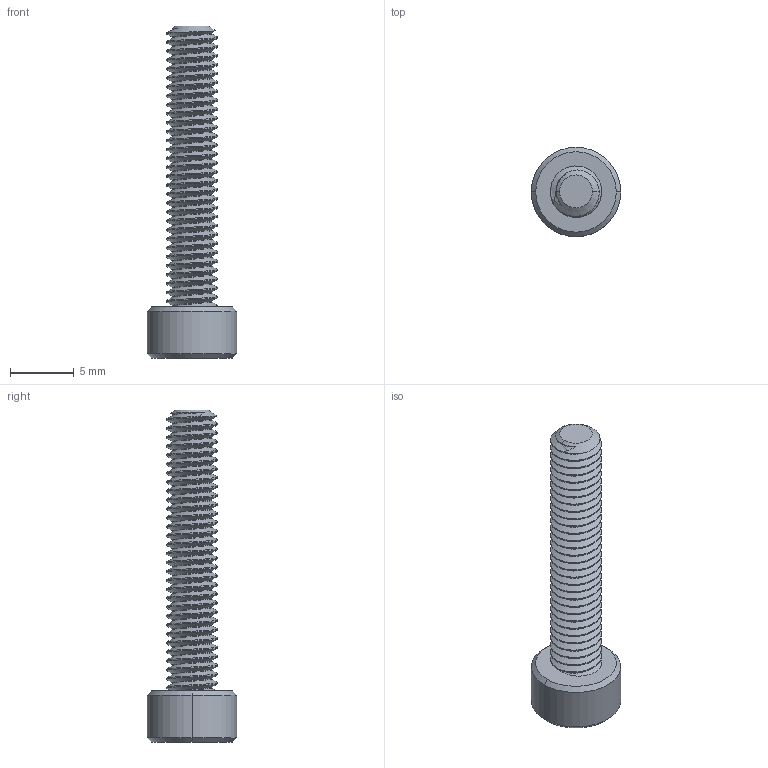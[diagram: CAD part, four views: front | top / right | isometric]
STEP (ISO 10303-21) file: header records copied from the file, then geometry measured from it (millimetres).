
FILE_DESCRIPTION (( 'STEP AP203' ), '1' );
FILE_NAME ('2800-0004-0022.STEP', '2017-04-04T18:11:25', ( '' ), ( '' ), 'SwSTEP 2.0', 'SolidWorks 2016', '' );
FILE_SCHEMA (( 'CONFIG_CONTROL_DESIGN' ));
Length unit declared in the file: millimetre
Products named in the file (1): 2800-0004-0022
Bounding box: 7 x 7 x 26 mm (x, y, z)
Volume: 351.7 mm3; surface area: 601.7 mm2
Topology: 1 solids, 1 shells, 154 faces, 433 edges, 283 vertices
Faces by surface type: cylinder 129, cone 13, plane 10, bspline 2
Entity records: 7901 total; most frequent: CARTESIAN_POINT 4623, ORIENTED_EDGE 866, DIRECTION 496, EDGE_CURVE 433, VERTEX_POINT 283, AXIS2_PLACEMENT_3D 175, EDGE_LOOP 156, FACE_OUTER_BOUND 154
